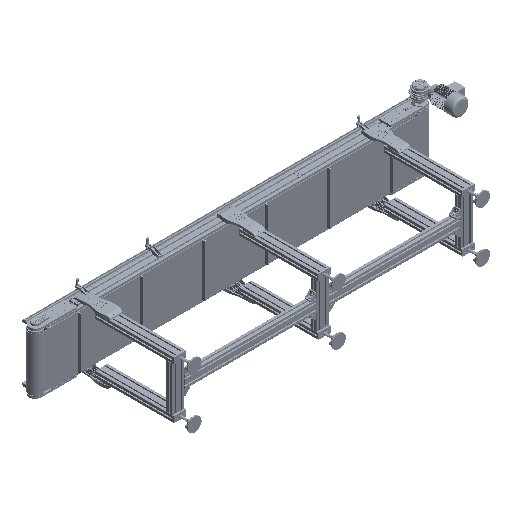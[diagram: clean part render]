
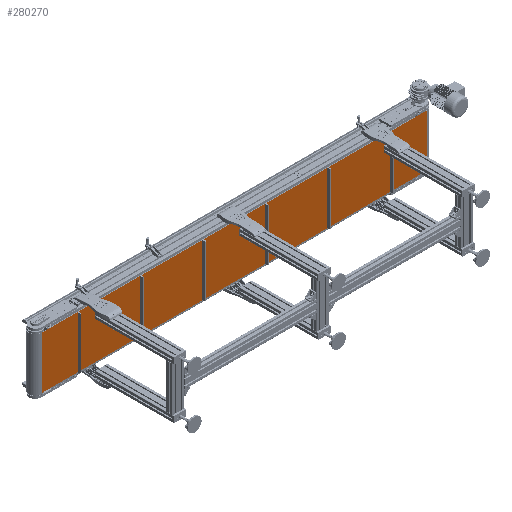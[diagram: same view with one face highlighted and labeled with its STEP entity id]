
A CAD part, isometric view. The second image highlights one B-rep face of the part: STEP entity #280270.
In plain terms, the highlighted planar face has unit normal (0, -1, 0).
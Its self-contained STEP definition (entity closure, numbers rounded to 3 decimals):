
#14091 = VECTOR ( 'NONE', #224898, 1000. ) ;
#46047 = ORIENTED_EDGE ( 'NONE', *, *, #101416, .T. ) ;
#55381 = CARTESIAN_POINT ( 'NONE',  ( 1400., -49.5, 190. ) ) ;
#64184 = LINE ( 'NONE', #264139, #14091 ) ;
#77599 = CARTESIAN_POINT ( 'NONE',  ( -1400., -49.5, 190. ) ) ;
#81107 = VECTOR ( 'NONE', #141405, 1000. ) ;
#81831 = DIRECTION ( 'NONE',  ( 0., 0., 1. ) ) ;
#82436 = LINE ( 'NONE', #170785, #123197 ) ;
#91590 = CARTESIAN_POINT ( 'NONE',  ( 1400., -49.5, -190. ) ) ;
#93617 = EDGE_CURVE ( 'NONE', #111854, #145977, #82436, .T. ) ;
#101416 = EDGE_CURVE ( 'NONE', #277941, #145977, #64184, .T. ) ;
#102122 = FACE_OUTER_BOUND ( 'NONE', #277118, .T. ) ;
#111854 = VERTEX_POINT ( 'NONE', #55381 ) ;
#118021 = DIRECTION ( 'NONE',  ( 1., 0., 0. ) ) ;
#119444 = CARTESIAN_POINT ( 'NONE',  ( -1400., -49.5, 190. ) ) ;
#123197 = VECTOR ( 'NONE', #234583, 1000. ) ;
#141405 = DIRECTION ( 'NONE',  ( 0., 0., -1. ) ) ;
#145977 = VERTEX_POINT ( 'NONE', #91590 ) ;
#152354 = ORIENTED_EDGE ( 'NONE', *, *, #93617, .F. ) ;
#170785 = CARTESIAN_POINT ( 'NONE',  ( 1400., -49.5, 190. ) ) ;
#186284 = LINE ( 'NONE', #77599, #81107 ) ;
#187047 = CARTESIAN_POINT ( 'NONE',  ( -1400., -49.5, -190. ) ) ;
#188132 = EDGE_CURVE ( 'NONE', #202182, #277941, #186284, .T. ) ;
#189079 = CARTESIAN_POINT ( 'NONE',  ( -1400., -49.5, 190. ) ) ;
#202182 = VERTEX_POINT ( 'NONE', #263051 ) ;
#224898 = DIRECTION ( 'NONE',  ( 1., 0., 0. ) ) ;
#231098 = PLANE ( 'NONE',  #275488 ) ;
#232529 = DIRECTION ( 'NONE',  ( 0., 1., 0. ) ) ;
#234583 = DIRECTION ( 'NONE',  ( 0., 0., -1. ) ) ;
#254170 = LINE ( 'NONE', #119444, #259820 ) ;
#258610 = ORIENTED_EDGE ( 'NONE', *, *, #272498, .F. ) ;
#259820 = VECTOR ( 'NONE', #118021, 1000. ) ;
#263051 = CARTESIAN_POINT ( 'NONE',  ( -1400., -49.5, 190. ) ) ;
#264139 = CARTESIAN_POINT ( 'NONE',  ( -1400., -49.5, -190. ) ) ;
#272498 = EDGE_CURVE ( 'NONE', #202182, #111854, #254170, .T. ) ;
#272911 = ORIENTED_EDGE ( 'NONE', *, *, #188132, .T. ) ;
#275488 = AXIS2_PLACEMENT_3D ( 'NONE', #189079, #232529, #81831 ) ;
#277118 = EDGE_LOOP ( 'NONE', ( #46047, #152354, #258610, #272911 ) ) ;
#277941 = VERTEX_POINT ( 'NONE', #187047 ) ;
#280270 = ADVANCED_FACE ( 'NONE', ( #102122 ), #231098, .F. ) ;
